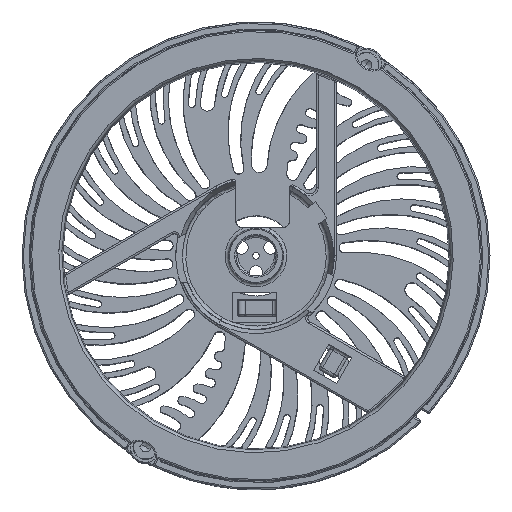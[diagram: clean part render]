
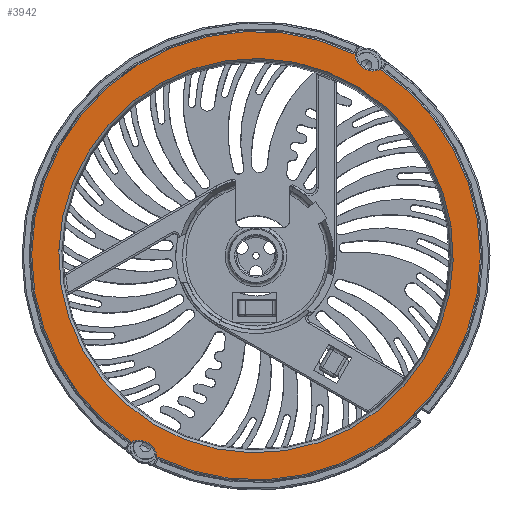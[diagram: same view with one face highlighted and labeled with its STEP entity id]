
A CAD part, top view. The second image highlights one B-rep face of the part: STEP entity #3942.
In plain terms, the highlighted planar face has unit normal (0, 0, 1).
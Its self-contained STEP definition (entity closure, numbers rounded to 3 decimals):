
#3656=AXIS2_PLACEMENT_3D('Circle Axis2P3D',#3654,#3655,$) ;
#3824=AXIS2_PLACEMENT_3D('Circle Axis2P3D',#3822,#3823,$) ;
#3836=AXIS2_PLACEMENT_3D('Circle Axis2P3D',#3834,#3835,$) ;
#3853=AXIS2_PLACEMENT_3D('Circle Axis2P3D',#3851,#3852,$) ;
#3879=AXIS2_PLACEMENT_3D('Circle Axis2P3D',#3877,#3878,$) ;
#3898=AXIS2_PLACEMENT_3D('Circle Axis2P3D',#3896,#3897,$) ;
#3918=AXIS2_PLACEMENT_3D('Plane Axis2P3D',#3915,#3916,#3917) ;
#3922=AXIS2_PLACEMENT_3D('Circle Axis2P3D',#3920,#3921,$) ;
#3927=AXIS2_PLACEMENT_3D('Circle Axis2P3D',#3925,#3926,$) ;
#3651=CARTESIAN_POINT('Vertex',(-29.443,-16.085,18.25)) ;
#3654=CARTESIAN_POINT('Axis2P3D Location',(0.,0.,18.25)) ;
#3658=CARTESIAN_POINT('Vertex',(14.808,30.105,18.25)) ;
#3812=CARTESIAN_POINT('Vertex',(-25.889,-14.143,18.25)) ;
#3819=CARTESIAN_POINT('Vertex',(25.889,14.143,18.25)) ;
#3822=CARTESIAN_POINT('Axis2P3D Location',(0.,0.,18.25)) ;
#3834=CARTESIAN_POINT('Axis2P3D Location',(0.,0.,18.25)) ;
#3851=CARTESIAN_POINT('Axis2P3D Location',(0.,0.,18.25)) ;
#3855=CARTESIAN_POINT('Vertex',(-18.668,-27.877,18.25)) ;
#3874=CARTESIAN_POINT('Vertex',(29.443,16.085,18.25)) ;
#3877=CARTESIAN_POINT('Axis2P3D Location',(0.,0.,18.25)) ;
#3881=CARTESIAN_POINT('Vertex',(-14.808,-30.105,18.25)) ;
#3896=CARTESIAN_POINT('Axis2P3D Location',(0.,0.,18.25)) ;
#3900=CARTESIAN_POINT('Vertex',(18.668,27.877,18.25)) ;
#3915=CARTESIAN_POINT('Axis2P3D Location',(-33.75,0.,18.25)) ;
#3920=CARTESIAN_POINT('Axis2P3D Location',(-17.5,-30.311,18.25)) ;
#3925=CARTESIAN_POINT('Axis2P3D Location',(17.5,30.311,18.25)) ;
#3655=DIRECTION('Axis2P3D Direction',(0.,0.,1.)) ;
#3823=DIRECTION('Axis2P3D Direction',(0.,0.,1.)) ;
#3835=DIRECTION('Axis2P3D Direction',(0.,0.,1.)) ;
#3852=DIRECTION('Axis2P3D Direction',(0.,-0.,1.)) ;
#3878=DIRECTION('Axis2P3D Direction',(0.,-0.,1.)) ;
#3897=DIRECTION('Axis2P3D Direction',(0.,0.,1.)) ;
#3916=DIRECTION('Axis2P3D Direction',(0.,0.,1.)) ;
#3917=DIRECTION('Axis2P3D XDirection',(1.,0.,0.)) ;
#3921=DIRECTION('Axis2P3D Direction',(0.,0.,1.)) ;
#3926=DIRECTION('Axis2P3D Direction',(0.,0.,1.)) ;
#3931=ORIENTED_EDGE('',*,*,#3660,.T.) ;
#3932=ORIENTED_EDGE('',*,*,#3857,.T.) ;
#3933=ORIENTED_EDGE('',*,*,#3924,.F.) ;
#3934=ORIENTED_EDGE('',*,*,#3883,.T.) ;
#3935=ORIENTED_EDGE('',*,*,#3902,.T.) ;
#3936=ORIENTED_EDGE('',*,*,#3929,.F.) ;
#3939=ORIENTED_EDGE('',*,*,#3838,.F.) ;
#3940=ORIENTED_EDGE('',*,*,#3826,.F.) ;
#3941=FACE_BOUND('',#3938,.T.) ;
#3942=ADVANCED_FACE('Koerper_1',(#3937,#3941),#3919,.T.) ;
#3657=CIRCLE('generated circle',#3656,33.55) ;
#3825=CIRCLE('generated circle',#3824,29.5) ;
#3837=CIRCLE('generated circle',#3836,29.5) ;
#3854=CIRCLE('generated circle',#3853,33.55) ;
#3880=CIRCLE('generated circle',#3879,33.55) ;
#3899=CIRCLE('generated circle',#3898,33.55) ;
#3923=CIRCLE('generated circle',#3922,2.7) ;
#3928=CIRCLE('generated circle',#3927,2.7) ;
#3660=EDGE_CURVE('',#3659,#3652,#3657,.T.) ;
#3826=EDGE_CURVE('',#3820,#3813,#3825,.T.) ;
#3838=EDGE_CURVE('',#3813,#3820,#3837,.T.) ;
#3857=EDGE_CURVE('',#3652,#3856,#3854,.T.) ;
#3883=EDGE_CURVE('',#3882,#3875,#3880,.T.) ;
#3902=EDGE_CURVE('',#3875,#3901,#3899,.T.) ;
#3924=EDGE_CURVE('',#3882,#3856,#3923,.T.) ;
#3929=EDGE_CURVE('',#3659,#3901,#3928,.T.) ;
#3930=EDGE_LOOP('',(#3931,#3932,#3933,#3934,#3935,#3936)) ;
#3938=EDGE_LOOP('',(#3939,#3940)) ;
#3937=FACE_OUTER_BOUND('',#3930,.T.) ;
#3919=PLANE('Plane',#3918) ;
#3652=VERTEX_POINT('',#3651) ;
#3659=VERTEX_POINT('',#3658) ;
#3813=VERTEX_POINT('',#3812) ;
#3820=VERTEX_POINT('',#3819) ;
#3856=VERTEX_POINT('',#3855) ;
#3875=VERTEX_POINT('',#3874) ;
#3882=VERTEX_POINT('',#3881) ;
#3901=VERTEX_POINT('',#3900) ;
